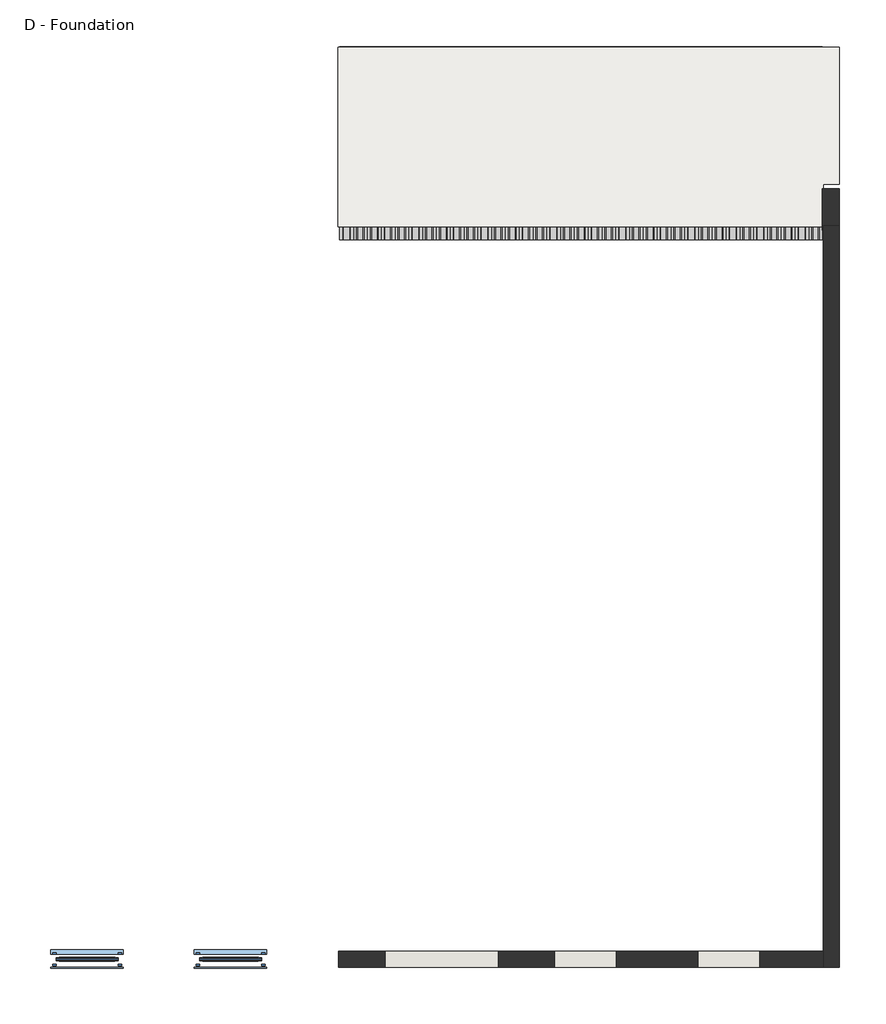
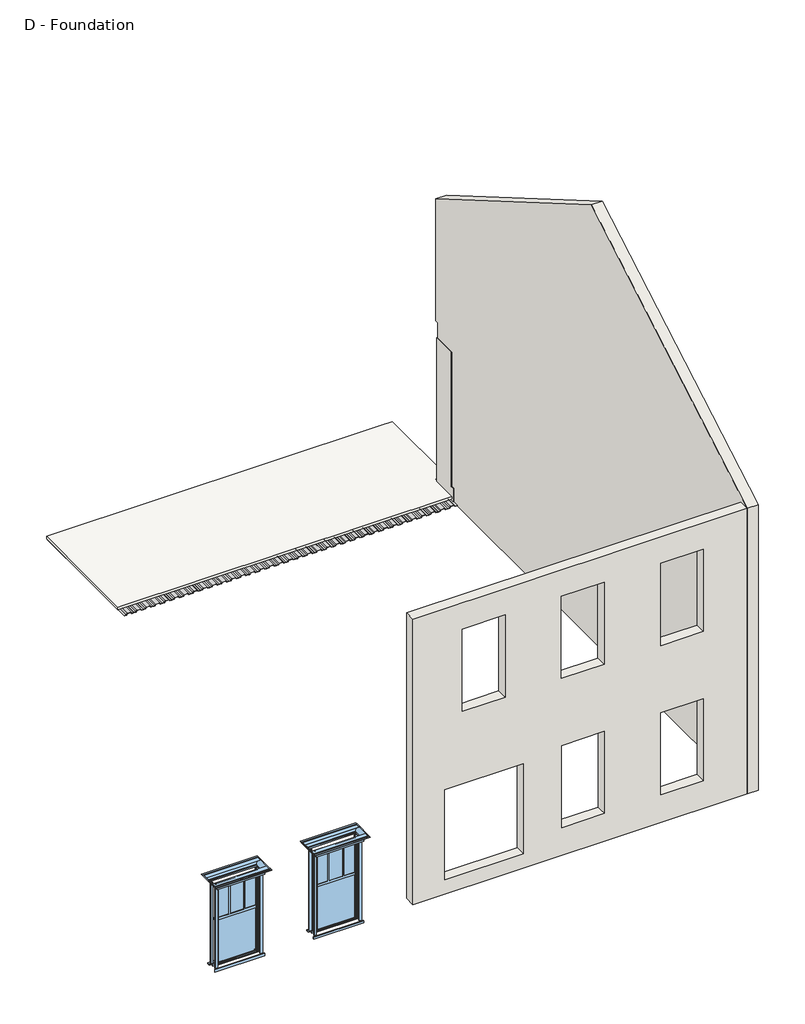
# One storey: 35 beams, 3 walls, 2 windows, 1 slab.
"""IFC4 building model written with IfcOpenShell, lengths in millimetres."""

from ifc_helpers import new_model, si_unit, frame, origin, place, context, project, spatial, polyline, outline, extrude, faceted_brep, transform, mapped, element, save
from components import beam_0339d567, craftsman_style_single_window_l_craftsman_style_single_4874115d

model = new_model("IFC4")

# Units and contexts
model_context = context("Model", 3, world=origin())
ifc_project = project(units=[si_unit("LENGTHUNIT", "METRE", prefix="MILLI")], contexts=[model_context])

# Site, building, storey
site = spatial("IfcSite", under=ifc_project)
building = spatial("IfcBuilding", under=site)
storey = spatial("IfcBuildingStorey", under=building, Name="D - Foundation", Elevation=1504.95)

# Beams
placement = place(None, origin())
beam_shape = beam_0339d567(model_context)
element("IfcBeam", 1, ObjectType="B-Deck_Single_Flute_3d_14388 : B-Deck_Single_Flute_3d_14388", at=placement, inside=storey, context=model_context, shape_type="MappedRepresentation", body=[
    mapped(beam_shape, transform((10717.6870514, 4777.1460538, 1528.2536934), x_axis=(0.0, -1.0, 0.0), y_axis=(1.0, 0.0, 0.0), z_axis=(0.0, 0.0, 1.0))),
])
element("IfcBeam", 2, ObjectType="B-Deck_Single_Flute_3d_14388 : B-Deck_Single_Flute_3d_14388", at=placement, inside=storey, context=model_context, shape_type="MappedRepresentation", body=[
    mapped(beam_shape, transform((10920.8870514, 4777.1460538, 1528.2536934), x_axis=(0.0, -1.0, 0.0), y_axis=(1.0, 0.0, 0.0), z_axis=(0.0, 0.0, 1.0))),
])
element("IfcBeam", 3, ObjectType="B-Deck_Single_Flute_3d_14388 : B-Deck_Single_Flute_3d_14388", at=placement, inside=storey, context=model_context, shape_type="MappedRepresentation", body=[
    mapped(beam_shape, transform((11124.0870514, 4777.1460538, 1528.2536934), x_axis=(0.0, -1.0, 0.0), y_axis=(1.0, 0.0, 0.0), z_axis=(0.0, 0.0, 1.0))),
])
element("IfcBeam", 4, ObjectType="B-Deck_Single_Flute_3d_14388 : B-Deck_Single_Flute_3d_14388", at=placement, inside=storey, context=model_context, shape_type="MappedRepresentation", body=[
    mapped(beam_shape, transform((11327.2870514, 4777.1460538, 1528.2536934), x_axis=(0.0, -1.0, 0.0), y_axis=(1.0, 0.0, 0.0), z_axis=(0.0, 0.0, 1.0))),
])
element("IfcBeam", 5, ObjectType="B-Deck_Single_Flute_3d_14388 : B-Deck_Single_Flute_3d_14388", at=placement, inside=storey, context=model_context, shape_type="MappedRepresentation", body=[
    mapped(beam_shape, transform((11530.4870514, 4777.1460538, 1528.2536934), x_axis=(0.0, -1.0, 0.0), y_axis=(1.0, 0.0, 0.0), z_axis=(0.0, 0.0, 1.0))),
])
element("IfcBeam", 6, ObjectType="B-Deck_Single_Flute_3d_14388 : B-Deck_Single_Flute_3d_14388", at=placement, inside=storey, context=model_context, shape_type="MappedRepresentation", body=[
    mapped(beam_shape, transform((11733.6870514, 4777.1460538, 1528.2536934), x_axis=(0.0, -1.0, 0.0), y_axis=(1.0, 0.0, 0.0), z_axis=(0.0, 0.0, 1.0))),
])
element("IfcBeam", 7, ObjectType="B-Deck_Single_Flute_3d_14388 : B-Deck_Single_Flute_3d_14388", at=placement, inside=storey, context=model_context, shape_type="MappedRepresentation", body=[
    mapped(beam_shape, transform((11936.8870514, 4777.1460538, 1528.2536934), x_axis=(0.0, -1.0, 0.0), y_axis=(1.0, 0.0, 0.0), z_axis=(0.0, 0.0, 1.0))),
])
element("IfcBeam", 8, ObjectType="B-Deck_Single_Flute_3d_14388 : B-Deck_Single_Flute_3d_14388", at=placement, inside=storey, context=model_context, shape_type="MappedRepresentation", body=[
    mapped(beam_shape, transform((12140.0870514, 4777.1460538, 1528.2536934), x_axis=(0.0, -1.0, 0.0), y_axis=(1.0, 0.0, 0.0), z_axis=(0.0, 0.0, 1.0))),
])
element("IfcBeam", 9, ObjectType="B-Deck_Single_Flute_3d_14388 : B-Deck_Single_Flute_3d_14388", at=placement, inside=storey, context=model_context, shape_type="MappedRepresentation", body=[
    mapped(beam_shape, transform((12343.2870514, 4777.1460538, 1528.2536934), x_axis=(0.0, -1.0, 0.0), y_axis=(1.0, 0.0, 0.0), z_axis=(0.0, 0.0, 1.0))),
])
element("IfcBeam", 10, ObjectType="B-Deck_Single_Flute_3d_14388 : B-Deck_Single_Flute_3d_14388", at=placement, inside=storey, context=model_context, shape_type="MappedRepresentation", body=[
    mapped(beam_shape, transform((12546.4870514, 4777.1460538, 1528.2536934), x_axis=(0.0, -1.0, 0.0), y_axis=(1.0, 0.0, 0.0), z_axis=(0.0, 0.0, 1.0))),
])
element("IfcBeam", 11, ObjectType="B-Deck_Single_Flute_3d_14388 : B-Deck_Single_Flute_3d_14388", at=placement, inside=storey, context=model_context, shape_type="MappedRepresentation", body=[
    mapped(beam_shape, transform((12749.6870514, 4777.1460538, 1528.2536934), x_axis=(0.0, -1.0, 0.0), y_axis=(1.0, 0.0, 0.0), z_axis=(0.0, 0.0, 1.0))),
])
element("IfcBeam", 12, ObjectType="B-Deck_Single_Flute_3d_14388 : B-Deck_Single_Flute_3d_14388", at=placement, inside=storey, context=model_context, shape_type="MappedRepresentation", body=[
    mapped(beam_shape, transform((12952.8870514, 4777.1460538, 1528.2536934), x_axis=(0.0, -1.0, 0.0), y_axis=(1.0, 0.0, 0.0), z_axis=(0.0, 0.0, 1.0))),
])
element("IfcBeam", 13, ObjectType="B-Deck_Single_Flute_3d_14388 : B-Deck_Single_Flute_3d_14388", at=placement, inside=storey, context=model_context, shape_type="MappedRepresentation", body=[
    mapped(beam_shape, transform((13156.0870514, 4777.1460538, 1528.2536934), x_axis=(0.0, -1.0, 0.0), y_axis=(1.0, 0.0, 0.0), z_axis=(0.0, 0.0, 1.0))),
])
element("IfcBeam", 14, ObjectType="B-Deck_Single_Flute_3d_14388 : B-Deck_Single_Flute_3d_14388", at=placement, inside=storey, context=model_context, shape_type="MappedRepresentation", body=[
    mapped(beam_shape, transform((13359.2870514, 4777.1460538, 1528.2536934), x_axis=(0.0, -1.0, 0.0), y_axis=(1.0, 0.0, 0.0), z_axis=(0.0, 0.0, 1.0))),
])
element("IfcBeam", 15, ObjectType="B-Deck_Single_Flute_3d_14388 : B-Deck_Single_Flute_3d_14388", at=placement, inside=storey, context=model_context, shape_type="MappedRepresentation", body=[
    mapped(beam_shape, transform((13562.4870514, 4777.1460538, 1528.2536934), x_axis=(0.0, -1.0, 0.0), y_axis=(1.0, 0.0, 0.0), z_axis=(0.0, 0.0, 1.0))),
])
element("IfcBeam", 16, ObjectType="B-Deck_Single_Flute_3d_14388 : B-Deck_Single_Flute_3d_14388", at=placement, inside=storey, context=model_context, shape_type="MappedRepresentation", body=[
    mapped(beam_shape, transform((13765.6870514, 4777.1460538, 1528.2536934), x_axis=(0.0, -1.0, 0.0), y_axis=(1.0, 0.0, 0.0), z_axis=(0.0, 0.0, 1.0))),
])
element("IfcBeam", 17, ObjectType="B-Deck_Single_Flute_3d_14388 : B-Deck_Single_Flute_3d_14388", at=placement, inside=storey, context=model_context, shape_type="MappedRepresentation", body=[
    mapped(beam_shape, transform((13968.8870514, 4777.1460538, 1528.2536934), x_axis=(0.0, -1.0, 0.0), y_axis=(1.0, 0.0, 0.0), z_axis=(0.0, 0.0, 1.0))),
])
element("IfcBeam", 18, ObjectType="B-Deck_Single_Flute_3d_14388 : B-Deck_Single_Flute_3d_14388", at=placement, inside=storey, context=model_context, shape_type="MappedRepresentation", body=[
    mapped(beam_shape, transform((14172.0870514, 4777.1460538, 1528.2536934), x_axis=(0.0, -1.0, 0.0), y_axis=(1.0, 0.0, 0.0), z_axis=(0.0, 0.0, 1.0))),
])
element("IfcBeam", 19, ObjectType="B-Deck_Single_Flute_3d_14388 : B-Deck_Single_Flute_3d_14388", at=placement, inside=storey, context=model_context, shape_type="MappedRepresentation", body=[
    mapped(beam_shape, transform((14375.2870514, 4777.1460538, 1528.2536934), x_axis=(0.0, -1.0, 0.0), y_axis=(1.0, 0.0, 0.0), z_axis=(0.0, 0.0, 1.0))),
])
element("IfcBeam", 20, ObjectType="B-Deck_Single_Flute_3d_14388 : B-Deck_Single_Flute_3d_14388", at=placement, inside=storey, context=model_context, shape_type="MappedRepresentation", body=[
    mapped(beam_shape, transform((14578.4870514, 4777.1460538, 1528.2536934), x_axis=(0.0, -1.0, 0.0), y_axis=(1.0, 0.0, 0.0), z_axis=(0.0, 0.0, 1.0))),
])
element("IfcBeam", 21, ObjectType="B-Deck_Single_Flute_3d_14388 : B-Deck_Single_Flute_3d_14388", at=placement, inside=storey, context=model_context, shape_type="MappedRepresentation", body=[
    mapped(beam_shape, transform((14781.6870514, 4777.1460538, 1528.2536934), x_axis=(0.0, -1.0, 0.0), y_axis=(1.0, 0.0, 0.0), z_axis=(0.0, 0.0, 1.0))),
])
element("IfcBeam", 22, ObjectType="B-Deck_Single_Flute_3d_14388 : B-Deck_Single_Flute_3d_14388", at=placement, inside=storey, context=model_context, shape_type="MappedRepresentation", body=[
    mapped(beam_shape, transform((14984.8870514, 4777.1460538, 1528.2536934), x_axis=(0.0, -1.0, 0.0), y_axis=(1.0, 0.0, 0.0), z_axis=(0.0, 0.0, 1.0))),
])
element("IfcBeam", 23, ObjectType="B-Deck_Single_Flute_3d_14388 : B-Deck_Single_Flute_3d_14388", at=placement, inside=storey, context=model_context, shape_type="MappedRepresentation", body=[
    mapped(beam_shape, transform((15188.0870514, 4777.1460538, 1528.2536934), x_axis=(0.0, -1.0, 0.0), y_axis=(1.0, 0.0, 0.0), z_axis=(0.0, 0.0, 1.0))),
])
element("IfcBeam", 24, ObjectType="B-Deck_Single_Flute_3d_14388 : B-Deck_Single_Flute_3d_14388", at=placement, inside=storey, context=model_context, shape_type="MappedRepresentation", body=[
    mapped(beam_shape, transform((15391.2870514, 4777.1460538, 1528.2536934), x_axis=(0.0, -1.0, 0.0), y_axis=(1.0, 0.0, 0.0), z_axis=(0.0, 0.0, 1.0))),
])
element("IfcBeam", 25, ObjectType="B-Deck_Single_Flute_3d_14388 : B-Deck_Single_Flute_3d_14388", at=placement, inside=storey, context=model_context, shape_type="MappedRepresentation", body=[
    mapped(beam_shape, transform((15594.4870514, 4777.1460538, 1528.2536934), x_axis=(0.0, -1.0, 0.0), y_axis=(1.0, 0.0, 0.0), z_axis=(0.0, 0.0, 1.0))),
])
element("IfcBeam", 26, ObjectType="B-Deck_Single_Flute_3d_14388 : B-Deck_Single_Flute_3d_14388", at=placement, inside=storey, context=model_context, shape_type="MappedRepresentation", body=[
    mapped(beam_shape, transform((15797.6870514, 4777.1460538, 1528.2536934), x_axis=(0.0, -1.0, 0.0), y_axis=(1.0, 0.0, 0.0), z_axis=(0.0, 0.0, 1.0))),
])
element("IfcBeam", 27, ObjectType="B-Deck_Single_Flute_3d_14388 : B-Deck_Single_Flute_3d_14388", at=placement, inside=storey, context=model_context, shape_type="MappedRepresentation", body=[
    mapped(beam_shape, transform((16000.8870514, 4777.1460538, 1528.2536934), x_axis=(0.0, -1.0, 0.0), y_axis=(1.0, 0.0, 0.0), z_axis=(0.0, 0.0, 1.0))),
])
element("IfcBeam", 28, ObjectType="B-Deck_Single_Flute_3d_14388 : B-Deck_Single_Flute_3d_14388", at=placement, inside=storey, context=model_context, shape_type="MappedRepresentation", body=[
    mapped(beam_shape, transform((16204.0870514, 4777.1460538, 1528.2536934), x_axis=(0.0, -1.0, 0.0), y_axis=(1.0, 0.0, 0.0), z_axis=(0.0, 0.0, 1.0))),
])
element("IfcBeam", 29, ObjectType="B-Deck_Single_Flute_3d_14388 : B-Deck_Single_Flute_3d_14388", at=placement, inside=storey, context=model_context, shape_type="MappedRepresentation", body=[
    mapped(beam_shape, transform((16407.2870514, 4777.1460538, 1528.2536934), x_axis=(0.0, -1.0, 0.0), y_axis=(1.0, 0.0, 0.0), z_axis=(0.0, 0.0, 1.0))),
])
element("IfcBeam", 30, ObjectType="B-Deck_Single_Flute_3d_14388 : B-Deck_Single_Flute_3d_14388", at=placement, inside=storey, context=model_context, shape_type="MappedRepresentation", body=[
    mapped(beam_shape, transform((16610.4870514, 4777.1460538, 1528.2536934), x_axis=(0.0, -1.0, 0.0), y_axis=(1.0, 0.0, 0.0), z_axis=(0.0, 0.0, 1.0))),
])
element("IfcBeam", 31, ObjectType="B-Deck_Single_Flute_3d_14388 : B-Deck_Single_Flute_3d_14388", at=placement, inside=storey, context=model_context, shape_type="MappedRepresentation", body=[
    mapped(beam_shape, transform((16813.6870514, 4777.1460538, 1528.2536934), x_axis=(0.0, -1.0, 0.0), y_axis=(1.0, 0.0, 0.0), z_axis=(0.0, 0.0, 1.0))),
])
element("IfcBeam", 32, ObjectType="B-Deck_Single_Flute_3d_14388 : B-Deck_Single_Flute_3d_14388", at=placement, inside=storey, context=model_context, shape_type="MappedRepresentation", body=[
    mapped(beam_shape, transform((17016.8870514, 4777.1460538, 1528.2536934), x_axis=(0.0, -1.0, 0.0), y_axis=(1.0, 0.0, 0.0), z_axis=(0.0, 0.0, 1.0))),
])
element("IfcBeam", 33, ObjectType="B-Deck_Single_Flute_3d_14388 : B-Deck_Single_Flute_3d_14388", at=placement, inside=storey, context=model_context, shape_type="MappedRepresentation", body=[
    mapped(beam_shape, transform((17220.0870514, 4777.1460538, 1528.2536934), x_axis=(0.0, -1.0, 0.0), y_axis=(1.0, 0.0, 0.0), z_axis=(0.0, 0.0, 1.0))),
])
element("IfcBeam", 34, ObjectType="B-Deck_Single_Flute_3d_14388 : B-Deck_Single_Flute_3d_14388", at=placement, inside=storey, context=model_context, shape_type="MappedRepresentation", body=[
    mapped(beam_shape, transform((17423.2870514, 4777.1460538, 1528.2536934), x_axis=(0.0, -1.0, 0.0), y_axis=(1.0, 0.0, 0.0), z_axis=(0.0, 0.0, 1.0))),
])
element("IfcBeam", 35, ObjectType="B-Deck_Single_Flute_3d_14388 : B-Deck_Single_Flute_3d_14388", at=placement, inside=storey, context=model_context, shape_type="MappedRepresentation", body=[
    mapped(beam_shape, transform((17626.4870514, 4777.1460538, 1528.2536934), x_axis=(0.0, -1.0, 0.0), y_axis=(1.0, 0.0, 0.0), z_axis=(0.0, 0.0, 1.0))),
])

# Slab
element("IfcSlab", 36, ObjectType="Deck", at=placement, inside=storey, context=model_context, shape_type="SweptSolid", body=[
    extrude(outline(polyline([(17743.9620514, 6190.0210538), (17975.7370514, 6190.0210538), (17975.7370514, 4173.8960538), (17743.9620514, 4173.8960538), (17743.9620514, 3545.2460538), (10590.6870514, 3545.2460538), (10590.6870514, 6190.0210538), (17743.9620514, 6190.0210538)])), frame((0.0, 0.0, 1562.1), z_axis=(0.0, 0.0, 1.0), x_axis=(1.0, 0.0, 0.0)), (0.0, 0.0, 1.0), 57.15),
])

# Walls
element("IfcWall", 37, ObjectType="Exterior - Brick on Wood Stud", at=placement, inside=storey, context=model_context, shape_type="Brep", body=[
    faceted_brep([(17743.9620514, 4107.2210538, 4832.35), (17743.9620514, 3564.2960538, 4832.35), (17743.9620514, 3564.2960538, 1828.8), (17743.9620514, 3545.2460538, 1828.8), (17743.9620514, 3497.6210538, 1828.8), (17743.9620514, 3497.6210538, 1504.95), (17743.9620514, -7122.7539462, 1504.95), (17743.9620514, -7354.5289462, 1504.95), (17743.9620514, -7354.5289462, 7956.55), (17743.9620514, -1590.3164462, 11319.0072917), (17743.9620514, 4173.8960538, 7956.55), (17743.9620514, 4173.8960538, 5200.65), (17743.9620514, 4154.8460538, 5200.65), (17743.9620514, 4107.2210538, 5200.65), (17975.7370514, 4107.2210538, 4832.35), (17975.7370514, 4107.2210538, 5200.65), (17975.7370514, 4173.8960538, 5200.65), (17975.7370514, 4173.8960538, 7956.55), (17975.7370514, -1590.3164462, 11319.0072917), (17975.7370514, -7354.5289462, 7956.55), (17975.7370514, -7354.5289462, 1504.95), (17975.7370514, 3497.6210538, 1504.95), (17975.7370514, 3497.6210538, 1828.8), (17975.7370514, 3564.2960538, 1828.8), (17975.7370514, 3564.2960538, 4832.35)], [[[0, 1, 2, 3, 4, 5, 6, 7, 8, 9, 10, 11, 12, 13]], [[14, 15, 16, 17, 18, 19, 20, 21, 22, 23, 24]], [[8, 7, 20, 19]], [[10, 9, 18, 17]], [[9, 8, 19, 18]], [[11, 10, 17, 16]], [[7, 6, 5, 21, 20]], [[0, 13, 15, 14]], [[1, 0, 14, 24]], [[11, 16, 15, 13, 12]], [[5, 4, 22, 21]], [[2, 23, 22, 4, 3]], [[2, 1, 24, 23]]]),
])
element("IfcWall", 38, ObjectType="Exterior - Brick on Wood Stud", at=placement, inside=storey, context=model_context, shape_type="Brep", body=[
    faceted_brep([(17743.9620514, -7122.7539462, 1504.95), (10730.3870514, -7122.7539462, 1504.95), (10597.0370514, -7122.7539462, 1504.95), (10597.0370514, -7122.7539462, 7346.95), (10597.0370514, -7122.7539462, 7482.1520833), (10597.0370514, -7122.7539462, 7956.55), (17743.9620514, -7122.7539462, 7956.55), (15892.032409, -7122.7539462, 3987.8), (15892.032409, -7122.7539462, 2133.6), (16806.432409, -7122.7539462, 2133.6), (16806.432409, -7122.7539462, 3987.8), (13777.9347302, -7122.7539462, 3987.8), (13777.9347302, -7122.7539462, 2133.6), (14692.3347302, -7122.7539462, 2133.6), (14692.3347302, -7122.7539462, 3987.8), (12959.2370514, -7122.7539462, 1828.8), (12959.2370514, -7122.7539462, 3860.8), (11282.8370514, -7122.7539462, 3860.8), (11282.8370514, -7122.7539462, 1828.8), (11654.773124, -7122.7539462, 7359.65), (11654.773124, -7122.7539462, 5505.45), (12569.173124, -7122.7539462, 5505.45), (12569.173124, -7122.7539462, 7359.65), (15892.032409, -7122.7539462, 7359.65), (15892.032409, -7122.7539462, 5505.45), (16806.432409, -7122.7539462, 5505.45), (16806.432409, -7122.7539462, 7359.65), (13773.4027665, -7122.7539462, 7359.65), (13773.4027665, -7122.7539462, 5505.45), (14687.8027665, -7122.7539462, 5505.45), (14687.8027665, -7122.7539462, 7359.65), (17743.9620514, -7354.5289462, 1504.95), (17743.9620514, -7354.5289462, 7956.55), (10597.0370514, -7354.5289462, 7956.55), (10597.0370514, -7354.5289462, 7346.95), (10597.0370514, -7354.5289462, 1504.95), (15892.032409, -7354.5289462, 3987.8), (16806.432409, -7354.5289462, 3987.8), (16806.432409, -7354.5289462, 2133.6), (15892.032409, -7354.5289462, 2133.6), (13777.9347302, -7354.5289462, 3987.8), (14692.3347302, -7354.5289462, 3987.8), (14692.3347302, -7354.5289462, 2133.6), (13777.9347302, -7354.5289462, 2133.6), (12959.2370514, -7354.5289462, 1828.8), (11282.8370514, -7354.5289462, 1828.8), (11282.8370514, -7354.5289462, 3860.8), (12959.2370514, -7354.5289462, 3860.8), (11654.773124, -7354.5289462, 7359.65), (12569.173124, -7354.5289462, 7359.65), (12569.173124, -7354.5289462, 5505.45), (11654.773124, -7354.5289462, 5505.45), (15892.032409, -7354.5289462, 7359.65), (16806.432409, -7354.5289462, 7359.65), (16806.432409, -7354.5289462, 5505.45), (15892.032409, -7354.5289462, 5505.45), (13773.4027665, -7354.5289462, 7359.65), (14687.8027665, -7354.5289462, 7359.65), (14687.8027665, -7354.5289462, 5505.45), (13773.4027665, -7354.5289462, 5505.45)], [[[0, 1, 2, 3, 4, 5, 6], [7, 8, 9, 10], [11, 12, 13, 14], [15, 16, 17, 18], [19, 20, 21, 22], [23, 24, 25, 26], [27, 28, 29, 30]], [[31, 32, 33, 34, 35], [36, 37, 38, 39], [40, 41, 42, 43], [44, 45, 46, 47], [48, 49, 50, 51], [52, 53, 54, 55], [56, 57, 58, 59]], [[2, 1, 0, 31, 35]], [[5, 4, 3, 2, 35, 34, 33]], [[6, 5, 33, 32]], [[0, 6, 32, 31]], [[8, 7, 36, 39]], [[9, 8, 39, 38]], [[10, 9, 38, 37]], [[7, 10, 37, 36]], [[12, 11, 40, 43]], [[13, 12, 43, 42]], [[14, 13, 42, 41]], [[11, 14, 41, 40]], [[45, 44, 15, 18]], [[46, 45, 18, 17]], [[47, 46, 17, 16]], [[44, 47, 16, 15]], [[20, 19, 48, 51]], [[21, 20, 51, 50]], [[22, 21, 50, 49]], [[19, 22, 49, 48]], [[24, 23, 52, 55]], [[25, 24, 55, 54]], [[26, 25, 54, 53]], [[23, 26, 53, 52]], [[28, 27, 56, 59]], [[29, 28, 59, 58]], [[30, 29, 58, 57]], [[27, 30, 57, 56]]]),
])
element("IfcWall", 39, ObjectType="Exterior - Brick on Wood Stud w Siding", at=placement, inside=storey, context=model_context, shape_type="Brep", body=[
    faceted_brep([(17724.9120514, 4107.2210538, 4864.1), (17724.9120514, 4107.2210538, 1504.95), (17724.9120514, 3497.6210538, 1504.95), (17724.9120514, 3497.6210538, 1828.8), (17724.9120514, 3564.2960538, 1828.8), (17724.9120514, 3564.2960538, 4864.1), (17975.7370514, 4107.2210538, 1504.95), (17975.7370514, 4107.2210538, 4864.1), (17975.7370514, 3564.2960538, 4864.1), (17975.7370514, 3564.2960538, 4832.35), (17975.7370514, 3564.2960538, 1828.8), (17975.7370514, 3497.6210538, 1828.8), (17975.7370514, 3497.6210538, 1504.95), (17743.9620514, 3497.6210538, 1504.95), (17743.9620514, 3497.6210538, 1828.8), (17743.9620514, 3564.2960538, 1828.8)], [[[0, 1, 2, 3, 4, 5]], [[6, 7, 8, 9, 10, 11, 12]], [[2, 1, 6, 12, 13]], [[0, 5, 8, 7]], [[0, 7, 6, 1]], [[3, 2, 13, 12, 11, 14]], [[10, 15, 4, 3, 14, 11]], [[4, 15, 10, 9, 8, 5]]]),
])

# Windows
craftsman_style_single_window_l_craftsman_style_single_shape = craftsman_style_single_window_l_craftsman_style_single_4874115d(model_context)
element("IfcWindow", 40, ObjectType="Craftsman_Style_Single_Window_L : Craftsman_Style_Single_Window_L", at=placement, inside=storey, context=model_context, shape_type="MappedRepresentation", body=[
    mapped(craftsman_style_single_window_l_craftsman_style_single_shape, transform((9008.632409, -7238.6414462, 609.6), x_axis=(-1.0, 0.0, 0.0), y_axis=(0.0, -1.0, 0.0), z_axis=(0.0, 0.0, 1.0))),
])
element("IfcWindow", 41, ObjectType="Craftsman_Style_Single_Window_L : Craftsman_Style_Single_Window_L", at=placement, inside=storey, context=model_context, shape_type="MappedRepresentation", body=[
    mapped(craftsman_style_single_window_l_craftsman_style_single_shape, transform((6894.5347302, -7238.6414462, 609.6), x_axis=(-1.0, 0.0, 0.0), y_axis=(0.0, -1.0, 0.0), z_axis=(0.0, 0.0, 1.0))),
])

save(model, "model.ifc")
